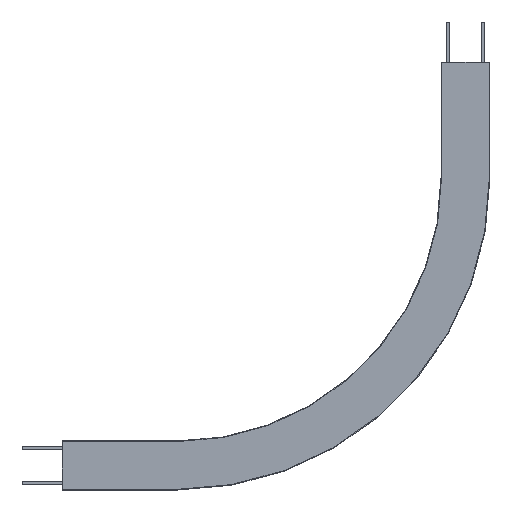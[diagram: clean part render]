
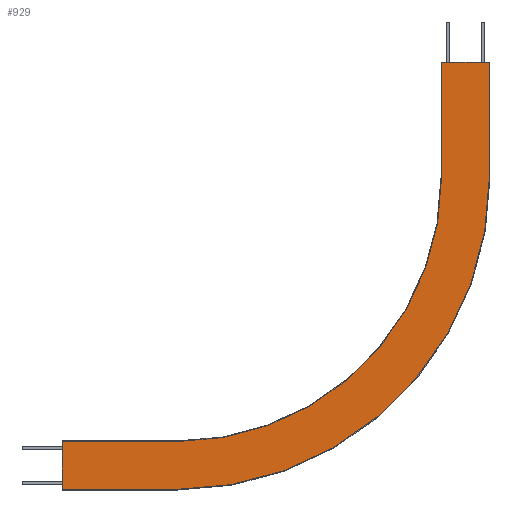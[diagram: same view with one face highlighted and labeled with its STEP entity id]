
A CAD part, top view. The second image highlights one B-rep face of the part: STEP entity #929.
In plain terms, the highlighted planar face has unit normal (0, 0, -1).
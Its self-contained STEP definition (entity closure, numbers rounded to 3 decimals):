
#61=CIRCLE('',#1011,458.5);
#62=CIRCLE('',#1013,541.5);
#119=FACE_OUTER_BOUND('',#171,.T.);
#171=EDGE_LOOP('',(#794,#795,#796,#797,#798,#799,#800,#801));
#253=LINE('',#1463,#363);
#255=LINE('',#1469,#365);
#262=LINE('',#1490,#372);
#267=LINE('',#1499,#377);
#268=LINE('',#1501,#378);
#269=LINE('',#1502,#379);
#363=VECTOR('',#1198,10.);
#365=VECTOR('',#1202,10.);
#372=VECTOR('',#1223,10.);
#377=VECTOR('',#1232,10.);
#378=VECTOR('',#1235,10.);
#379=VECTOR('',#1236,10.);
#453=VERTEX_POINT('',#1457);
#455=VERTEX_POINT('',#1461);
#456=VERTEX_POINT('',#1465);
#458=VERTEX_POINT('',#1468);
#461=VERTEX_POINT('',#1475);
#462=VERTEX_POINT('',#1480);
#464=VERTEX_POINT('',#1486);
#467=VERTEX_POINT('',#1497);
#565=EDGE_CURVE('',#453,#455,#253,.T.);
#567=EDGE_CURVE('',#456,#458,#255,.T.);
#572=EDGE_CURVE('',#461,#453,#61,.T.);
#574=EDGE_CURVE('',#462,#456,#62,.T.);
#578=EDGE_CURVE('',#464,#461,#262,.T.);
#583=EDGE_CURVE('',#467,#462,#267,.T.);
#584=EDGE_CURVE('',#467,#464,#268,.T.);
#585=EDGE_CURVE('',#455,#458,#269,.T.);
#794=ORIENTED_EDGE('',*,*,#584,.T.);
#795=ORIENTED_EDGE('',*,*,#578,.T.);
#796=ORIENTED_EDGE('',*,*,#572,.T.);
#797=ORIENTED_EDGE('',*,*,#565,.T.);
#798=ORIENTED_EDGE('',*,*,#585,.T.);
#799=ORIENTED_EDGE('',*,*,#567,.F.);
#800=ORIENTED_EDGE('',*,*,#574,.F.);
#801=ORIENTED_EDGE('',*,*,#583,.F.);
#879=PLANE('',#1018);
#929=ADVANCED_FACE('',(#119),#879,.F.);
#1011=AXIS2_PLACEMENT_3D('',#1478,#1210,#1211);
#1013=AXIS2_PLACEMENT_3D('',#1483,#1215,#1216);
#1018=AXIS2_PLACEMENT_3D('',#1500,#1233,#1234);
#1198=DIRECTION('',(0.,1.,0.));
#1202=DIRECTION('',(0.,1.,0.));
#1210=DIRECTION('center_axis',(0.,0.,1.));
#1211=DIRECTION('ref_axis',(0.,-1.,0.));
#1215=DIRECTION('center_axis',(0.,0.,1.));
#1216=DIRECTION('ref_axis',(0.,-1.,0.));
#1223=DIRECTION('',(1.,0.,0.));
#1232=DIRECTION('',(1.,0.,0.));
#1233=DIRECTION('center_axis',(0.,0.,1.));
#1234=DIRECTION('ref_axis',(0.,-1.,0.));
#1235=DIRECTION('',(0.,1.,0.));
#1236=DIRECTION('',(1.,0.,0.));
#1457=CARTESIAN_POINT('',(658.5,500.,42.5));
#1461=CARTESIAN_POINT('',(658.5,700.,42.5));
#1463=CARTESIAN_POINT('',(658.5,500.,42.5));
#1465=CARTESIAN_POINT('',(741.5,500.,42.5));
#1468=CARTESIAN_POINT('',(741.5,700.,42.5));
#1469=CARTESIAN_POINT('',(741.5,500.,42.5));
#1475=CARTESIAN_POINT('',(200.,41.5,42.5));
#1478=CARTESIAN_POINT('Origin',(200.,500.,42.5));
#1480=CARTESIAN_POINT('',(200.,-41.5,42.5));
#1483=CARTESIAN_POINT('Origin',(200.,500.,42.5));
#1486=CARTESIAN_POINT('',(0.,41.5,42.5));
#1490=CARTESIAN_POINT('',(0.,41.5,42.5));
#1497=CARTESIAN_POINT('',(0.,-41.5,42.5));
#1499=CARTESIAN_POINT('',(0.,-41.5,42.5));
#1500=CARTESIAN_POINT('Origin',(0.,41.5,42.5));
#1501=CARTESIAN_POINT('',(0.,-41.5,42.5));
#1502=CARTESIAN_POINT('',(741.5,700.,42.5));
